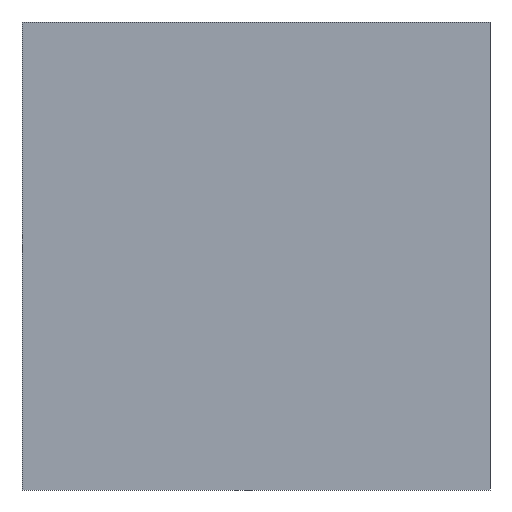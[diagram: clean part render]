
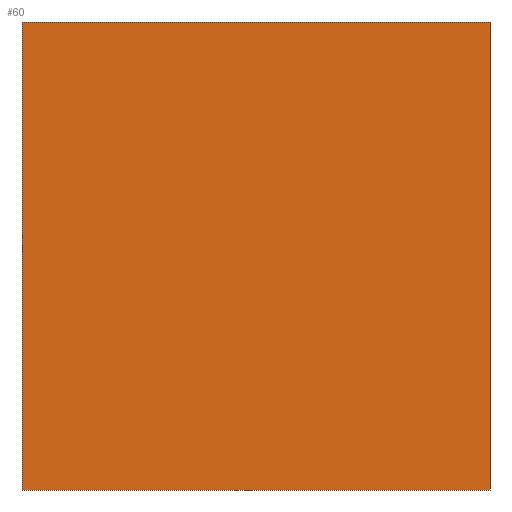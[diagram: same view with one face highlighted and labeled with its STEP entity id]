
A CAD part, front view. The second image highlights one B-rep face of the part: STEP entity #60.
In plain terms, the highlighted planar face has unit normal (0, -1, 0).
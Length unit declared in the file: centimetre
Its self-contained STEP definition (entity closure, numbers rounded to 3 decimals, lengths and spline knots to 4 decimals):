
#12 = ORIENTED_EDGE ( 'NONE', *, *, #147, .F. ) ;
#40 = VERTEX_POINT ( 'NONE', #168 ) ;
#41 = VERTEX_POINT ( 'NONE', #240 ) ;
#60 = ADVANCED_FACE ( 'NONE', ( #136 ), #367, .F. ) ;
#61 = DIRECTION ( 'NONE',  ( 0., 0., 1. ) ) ;
#90 = DIRECTION ( 'NONE',  ( 1., 0., 0. ) ) ;
#102 = LINE ( 'NONE', #375, #277 ) ;
#105 = DIRECTION ( 'NONE',  ( 0., 0., -1. ) ) ;
#116 = EDGE_CURVE ( 'NONE', #210, #40, #163, .T. ) ;
#124 = ORIENTED_EDGE ( 'NONE', *, *, #116, .T. ) ;
#136 = FACE_OUTER_BOUND ( 'NONE', #283, .T. ) ;
#147 = EDGE_CURVE ( 'NONE', #191, #40, #413, .T. ) ;
#153 = AXIS2_PLACEMENT_3D ( 'NONE', #299, #436, #61 ) ;
#156 = CARTESIAN_POINT ( 'NONE',  ( 0., 0., 1000. ) ) ;
#159 = ORIENTED_EDGE ( 'NONE', *, *, #332, .F. ) ;
#163 = LINE ( 'NONE', #295, #170 ) ;
#168 = CARTESIAN_POINT ( 'NONE',  ( 1000., 0., 0. ) ) ;
#170 = VECTOR ( 'NONE', #439, 100. ) ;
#173 = CARTESIAN_POINT ( 'NONE',  ( 0., 0., 0. ) ) ;
#191 = VERTEX_POINT ( 'NONE', #239 ) ;
#205 = DIRECTION ( 'NONE',  ( 0., 0., -1. ) ) ;
#210 = VERTEX_POINT ( 'NONE', #173 ) ;
#218 = VECTOR ( 'NONE', #105, 100. ) ;
#221 = LINE ( 'NONE', #156, #435 ) ;
#239 = CARTESIAN_POINT ( 'NONE',  ( 1000., 0., 1000. ) ) ;
#240 = CARTESIAN_POINT ( 'NONE',  ( 0., 0., 1000. ) ) ;
#277 = VECTOR ( 'NONE', #205, 100. ) ;
#283 = EDGE_LOOP ( 'NONE', ( #124, #12, #159, #345 ) ) ;
#295 = CARTESIAN_POINT ( 'NONE',  ( 0., 0., 0. ) ) ;
#299 = CARTESIAN_POINT ( 'NONE',  ( 0., 0., 1000. ) ) ;
#306 = CARTESIAN_POINT ( 'NONE',  ( 1000., 0., 1000. ) ) ;
#312 = EDGE_CURVE ( 'NONE', #41, #210, #102, .T. ) ;
#332 = EDGE_CURVE ( 'NONE', #41, #191, #221, .T. ) ;
#345 = ORIENTED_EDGE ( 'NONE', *, *, #312, .T. ) ;
#367 = PLANE ( 'NONE',  #153 ) ;
#375 = CARTESIAN_POINT ( 'NONE',  ( 0., 0., 1000. ) ) ;
#413 = LINE ( 'NONE', #306, #218 ) ;
#435 = VECTOR ( 'NONE', #90, 100. ) ;
#436 = DIRECTION ( 'NONE',  ( 0., 1., 0. ) ) ;
#439 = DIRECTION ( 'NONE',  ( 1., 0., 0. ) ) ;
